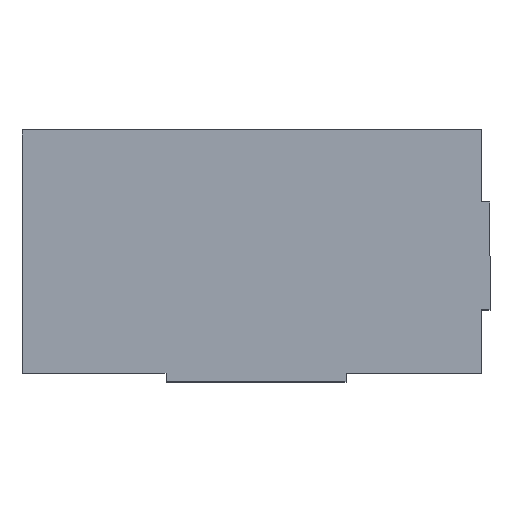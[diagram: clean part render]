
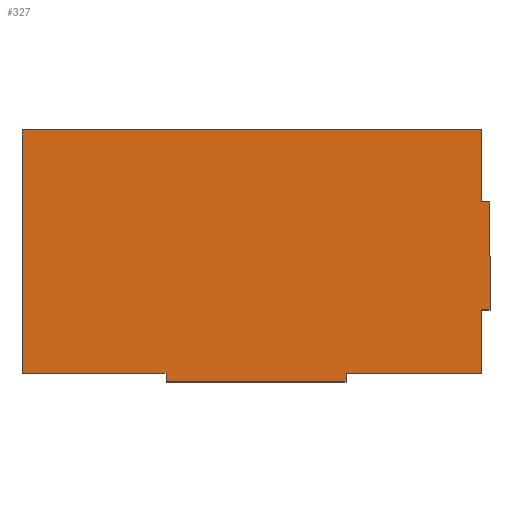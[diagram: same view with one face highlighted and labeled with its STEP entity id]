
A CAD part, top view. The second image highlights one B-rep face of the part: STEP entity #327.
In plain terms, the highlighted planar face has unit normal (0, 0, 1).
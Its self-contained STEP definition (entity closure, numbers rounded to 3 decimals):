
#3 = VECTOR ( 'NONE', #250, 1000. ) ;
#4 = EDGE_CURVE ( 'NONE', #139, #422, #199, .T. ) ;
#6 = CARTESIAN_POINT ( 'NONE',  ( 434.883, -90.243, 10. ) ) ;
#10 = ORIENTED_EDGE ( 'NONE', *, *, #252, .T. ) ;
#16 = DIRECTION ( 'NONE',  ( 1., 0., 0. ) ) ;
#21 = CARTESIAN_POINT ( 'NONE',  ( 434.883, 159.757, 10. ) ) ;
#35 = VECTOR ( 'NONE', #358, 1000. ) ;
#39 = VECTOR ( 'NONE', #16, 1000. ) ;
#40 = LINE ( 'NONE', #6, #35 ) ;
#48 = CARTESIAN_POINT ( 'NONE',  ( 446.883, 59.757, 10. ) ) ;
#52 = VERTEX_POINT ( 'NONE', #367 ) ;
#53 = DIRECTION ( 'NONE',  ( 0., 1., 0. ) ) ;
#55 = VERTEX_POINT ( 'NONE', #265 ) ;
#57 = CARTESIAN_POINT ( 'NONE',  ( -3.117, -190.243, 10. ) ) ;
#66 = CARTESIAN_POINT ( 'NONE',  ( 246.883, -178.243, 10. ) ) ;
#70 = EDGE_CURVE ( 'NONE', #55, #278, #255, .T. ) ;
#72 = EDGE_CURVE ( 'NONE', #422, #449, #355, .T. ) ;
#75 = VECTOR ( 'NONE', #322, 1000. ) ;
#84 = LINE ( 'NONE', #48, #114 ) ;
#87 = LINE ( 'NONE', #457, #287 ) ;
#95 = CARTESIAN_POINT ( 'NONE',  ( 434.883, 59.757, 10. ) ) ;
#97 = VERTEX_POINT ( 'NONE', #437 ) ;
#102 = ORIENTED_EDGE ( 'NONE', *, *, #276, .T. ) ;
#108 = CARTESIAN_POINT ( 'NONE',  ( -3.117, -178.243, 10. ) ) ;
#114 = VECTOR ( 'NONE', #53, 1000. ) ;
#115 = VECTOR ( 'NONE', #225, 1000. ) ;
#120 = VECTOR ( 'NONE', #436, 1000. ) ;
#131 = ORIENTED_EDGE ( 'NONE', *, *, #72, .T. ) ;
#132 = CARTESIAN_POINT ( 'NONE',  ( -203.117, 159.757, 10. ) ) ;
#138 = ORIENTED_EDGE ( 'NONE', *, *, #173, .T. ) ;
#139 = VERTEX_POINT ( 'NONE', #132 ) ;
#142 = VERTEX_POINT ( 'NONE', #419 ) ;
#151 = CARTESIAN_POINT ( 'NONE',  ( 446.883, -90.243, 10. ) ) ;
#154 = VECTOR ( 'NONE', #192, 1000. ) ;
#165 = ORIENTED_EDGE ( 'NONE', *, *, #183, .T. ) ;
#173 = EDGE_CURVE ( 'NONE', #278, #97, #84, .T. ) ;
#175 = VERTEX_POINT ( 'NONE', #57 ) ;
#183 = EDGE_CURVE ( 'NONE', #449, #175, #87, .T. ) ;
#184 = CARTESIAN_POINT ( 'NONE',  ( -203.117, -178.243, 10. ) ) ;
#186 = CARTESIAN_POINT ( 'NONE',  ( 246.883, -178.243, 10. ) ) ;
#192 = DIRECTION ( 'NONE',  ( 0., 1., 0. ) ) ;
#193 = VERTEX_POINT ( 'NONE', #95 ) ;
#199 = LINE ( 'NONE', #234, #120 ) ;
#206 = ORIENTED_EDGE ( 'NONE', *, *, #427, .T. ) ;
#208 = ORIENTED_EDGE ( 'NONE', *, *, #388, .T. ) ;
#217 = EDGE_CURVE ( 'NONE', #175, #52, #227, .T. ) ;
#219 = VECTOR ( 'NONE', #293, 1000. ) ;
#225 = DIRECTION ( 'NONE',  ( 1., 0., 0. ) ) ;
#227 = LINE ( 'NONE', #451, #39 ) ;
#234 = CARTESIAN_POINT ( 'NONE',  ( -203.117, 159.757, 10. ) ) ;
#250 = DIRECTION ( 'NONE',  ( 1., 0., 0. ) ) ;
#252 = EDGE_CURVE ( 'NONE', #193, #269, #379, .T. ) ;
#255 = LINE ( 'NONE', #151, #447 ) ;
#260 = LINE ( 'NONE', #400, #75 ) ;
#263 = LINE ( 'NONE', #307, #291 ) ;
#265 = CARTESIAN_POINT ( 'NONE',  ( 434.883, -90.243, 10. ) ) ;
#269 = VERTEX_POINT ( 'NONE', #21 ) ;
#270 = CARTESIAN_POINT ( 'NONE',  ( 446.883, -90.243, 10. ) ) ;
#273 = ORIENTED_EDGE ( 'NONE', *, *, #435, .T. ) ;
#274 = DIRECTION ( 'NONE',  ( 0., -1., 0. ) ) ;
#276 = EDGE_CURVE ( 'NONE', #97, #193, #263, .T. ) ;
#278 = VERTEX_POINT ( 'NONE', #270 ) ;
#281 = DIRECTION ( 'NONE',  ( -1., 0., 0. ) ) ;
#287 = VECTOR ( 'NONE', #274, 1000. ) ;
#288 = DIRECTION ( 'NONE',  ( 1., 0., 0. ) ) ;
#291 = VECTOR ( 'NONE', #365, 1000. ) ;
#293 = DIRECTION ( 'NONE',  ( 0., 1., 0. ) ) ;
#307 = CARTESIAN_POINT ( 'NONE',  ( 446.883, 59.757, 10. ) ) ;
#315 = EDGE_LOOP ( 'NONE', ( #454, #131, #165, #428, #208, #429, #273, #455, #138, #102, #10, #206 ) ) ;
#322 = DIRECTION ( 'NONE',  ( -1., 0., 0. ) ) ;
#327 = ADVANCED_FACE ( 'NONE', ( #386 ), #463, .F. ) ;
#340 = CARTESIAN_POINT ( 'NONE',  ( 434.883, 59.757, 10. ) ) ;
#344 = LINE ( 'NONE', #347, #219 ) ;
#347 = CARTESIAN_POINT ( 'NONE',  ( 246.883, -190.243, 10. ) ) ;
#355 = LINE ( 'NONE', #108, #3 ) ;
#358 = DIRECTION ( 'NONE',  ( 0., 1., 0. ) ) ;
#365 = DIRECTION ( 'NONE',  ( -1., 0., 0. ) ) ;
#367 = CARTESIAN_POINT ( 'NONE',  ( 246.883, -190.243, 10. ) ) ;
#374 = VERTEX_POINT ( 'NONE', #66 ) ;
#379 = LINE ( 'NONE', #340, #154 ) ;
#386 = FACE_OUTER_BOUND ( 'NONE', #315, .T. ) ;
#388 = EDGE_CURVE ( 'NONE', #52, #374, #344, .T. ) ;
#399 = AXIS2_PLACEMENT_3D ( 'NONE', #431, #466, #281 ) ;
#400 = CARTESIAN_POINT ( 'NONE',  ( -203.117, 159.757, 10. ) ) ;
#419 = CARTESIAN_POINT ( 'NONE',  ( 434.883, -178.243, 10. ) ) ;
#422 = VERTEX_POINT ( 'NONE', #184 ) ;
#427 = EDGE_CURVE ( 'NONE', #269, #139, #260, .T. ) ;
#428 = ORIENTED_EDGE ( 'NONE', *, *, #217, .T. ) ;
#429 = ORIENTED_EDGE ( 'NONE', *, *, #462, .T. ) ;
#431 = CARTESIAN_POINT ( 'NONE',  ( 0., 0., 10. ) ) ;
#435 = EDGE_CURVE ( 'NONE', #142, #55, #40, .T. ) ;
#436 = DIRECTION ( 'NONE',  ( 0., -1., 0. ) ) ;
#437 = CARTESIAN_POINT ( 'NONE',  ( 446.883, 59.757, 10. ) ) ;
#439 = LINE ( 'NONE', #186, #115 ) ;
#440 = CARTESIAN_POINT ( 'NONE',  ( -3.117, -178.243, 10. ) ) ;
#447 = VECTOR ( 'NONE', #288, 1000. ) ;
#449 = VERTEX_POINT ( 'NONE', #440 ) ;
#451 = CARTESIAN_POINT ( 'NONE',  ( -3.117, -190.243, 10. ) ) ;
#454 = ORIENTED_EDGE ( 'NONE', *, *, #4, .T. ) ;
#455 = ORIENTED_EDGE ( 'NONE', *, *, #70, .T. ) ;
#457 = CARTESIAN_POINT ( 'NONE',  ( -3.117, -190.243, 10. ) ) ;
#462 = EDGE_CURVE ( 'NONE', #374, #142, #439, .T. ) ;
#463 = PLANE ( 'NONE',  #399 ) ;
#466 = DIRECTION ( 'NONE',  ( 0., 0., -1. ) ) ;
